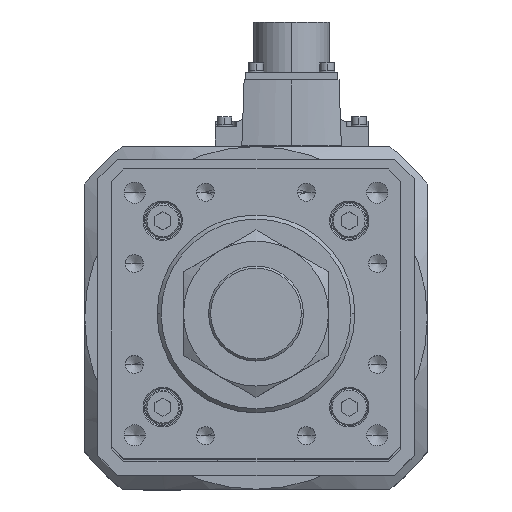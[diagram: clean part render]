
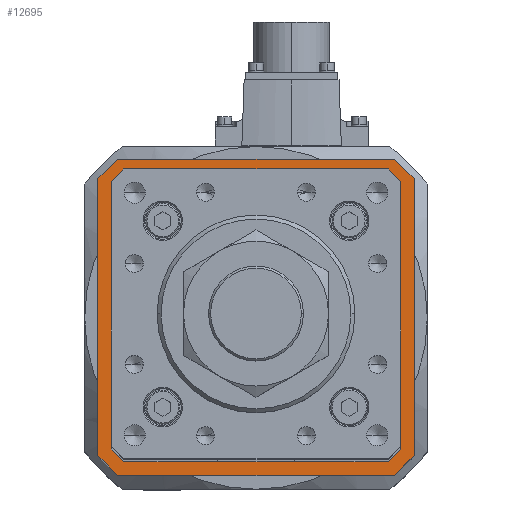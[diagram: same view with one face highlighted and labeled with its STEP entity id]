
A CAD part, top view. The second image highlights one B-rep face of the part: STEP entity #12695.
In plain terms, the highlighted planar face has unit normal (0, 0, 1).
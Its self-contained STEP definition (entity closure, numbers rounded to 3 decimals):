
#95 = CARTESIAN_POINT ( 'NONE',  ( -49.593, -53.5, -119. ) ) ;
#99 = VERTEX_POINT ( 'NONE', #22244 ) ;
#144 = CARTESIAN_POINT ( 'NONE',  ( 53.646, 49.446, -119. ) ) ;
#305 = VECTOR ( 'NONE', #11824, 1000. ) ;
#431 = VERTEX_POINT ( 'NONE', #31860 ) ;
#668 = ORIENTED_EDGE ( 'NONE', *, *, #36686, .T. ) ;
#748 = CARTESIAN_POINT ( 'NONE',  ( -60., -52.5, -119. ) ) ;
#1088 = EDGE_CURVE ( 'NONE', #9482, #1307, #27171, .T. ) ;
#1255 = LINE ( 'NONE', #25652, #15807 ) ;
#1307 = VERTEX_POINT ( 'NONE', #95 ) ;
#1320 = DIRECTION ( 'NONE',  ( 0., 1., 0. ) ) ;
#1944 = EDGE_CURVE ( 'NONE', #12021, #2591, #1255, .T. ) ;
#2183 = CARTESIAN_POINT ( 'NONE',  ( 49.593, 53.5, -119. ) ) ;
#2281 = ORIENTED_EDGE ( 'NONE', *, *, #34970, .F. ) ;
#2591 = VERTEX_POINT ( 'NONE', #9090 ) ;
#3013 = LINE ( 'NONE', #10335, #25193 ) ;
#3414 = CARTESIAN_POINT ( 'NONE',  ( 0., 0., -119. ) ) ;
#3561 = CARTESIAN_POINT ( 'NONE',  ( 53.5, -49.8, -119. ) ) ;
#3909 = CARTESIAN_POINT ( 'NONE',  ( -49.8, -53.5, -119. ) ) ;
#4072 = DIRECTION ( 'NONE',  ( 0., 1., 0. ) ) ;
#4471 = VECTOR ( 'NONE', #22693, 1000. ) ;
#5193 = EDGE_CURVE ( 'NONE', #1307, #10642, #27370, .T. ) ;
#6234 = EDGE_CURVE ( 'NONE', #431, #19478, #21884, .T. ) ;
#6612 = LINE ( 'NONE', #36043, #33432 ) ;
#7060 = ORIENTED_EDGE ( 'NONE', *, *, #36964, .T. ) ;
#8082 = LINE ( 'NONE', #28334, #22557 ) ;
#8440 = FACE_OUTER_BOUND ( 'NONE', #21092, .T. ) ;
#8579 = DIRECTION ( 'NONE',  ( 1., 0., 0. ) ) ;
#8928 = ORIENTED_EDGE ( 'NONE', *, *, #1088, .T. ) ;
#9090 = CARTESIAN_POINT ( 'NONE',  ( -49.593, 53.5, -119. ) ) ;
#9356 = ORIENTED_EDGE ( 'NONE', *, *, #11106, .F. ) ;
#9482 = VERTEX_POINT ( 'NONE', #14128 ) ;
#9708 = DIRECTION ( 'NONE',  ( -0.707, -0.707, 0. ) ) ;
#10124 = CARTESIAN_POINT ( 'NONE',  ( 53.5, 49.593, -119. ) ) ;
#10335 = CARTESIAN_POINT ( 'NONE',  ( 49.446, -53.646, -119. ) ) ;
#10465 = CARTESIAN_POINT ( 'NONE',  ( -60., 52.5, -119. ) ) ;
#10642 = VERTEX_POINT ( 'NONE', #36210 ) ;
#10655 = LINE ( 'NONE', #33070, #32436 ) ;
#10708 = AXIS2_PLACEMENT_3D ( 'NONE', #3414, #17770, #17398 ) ;
#10752 = DIRECTION ( 'NONE',  ( 0.707, -0.707, 0. ) ) ;
#11106 = EDGE_CURVE ( 'NONE', #30418, #14557, #6612, .T. ) ;
#11151 = CARTESIAN_POINT ( 'NONE',  ( 49.8, 53.5, -119. ) ) ;
#11385 = CARTESIAN_POINT ( 'NONE',  ( 52.5, -60., -119. ) ) ;
#11406 = DIRECTION ( 'NONE',  ( 1., 0., 0. ) ) ;
#11824 = DIRECTION ( 'NONE',  ( 0., -1., 0. ) ) ;
#12021 = VERTEX_POINT ( 'NONE', #24099 ) ;
#12249 = CARTESIAN_POINT ( 'NONE',  ( 60., -52.5, -119. ) ) ;
#12256 = EDGE_CURVE ( 'NONE', #37343, #29572, #17924, .T. ) ;
#12695 = ADVANCED_FACE ( 'NONE', ( #16131, #8440 ), #35162, .T. ) ;
#12951 = LINE ( 'NONE', #11385, #15197 ) ;
#13240 = DIRECTION ( 'NONE',  ( -0.707, -0.707, 0. ) ) ;
#14128 = CARTESIAN_POINT ( 'NONE',  ( 49.593, -53.5, -119. ) ) ;
#14142 = LINE ( 'NONE', #10465, #22720 ) ;
#14287 = ORIENTED_EDGE ( 'NONE', *, *, #35700, .F. ) ;
#14557 = VERTEX_POINT ( 'NONE', #748 ) ;
#14612 = VERTEX_POINT ( 'NONE', #32608 ) ;
#15197 = VECTOR ( 'NONE', #31698, 1000. ) ;
#15583 = ORIENTED_EDGE ( 'NONE', *, *, #29707, .T. ) ;
#15689 = DIRECTION ( 'NONE',  ( 0.707, 0.707, 0. ) ) ;
#15783 = VERTEX_POINT ( 'NONE', #25537 ) ;
#15807 = VECTOR ( 'NONE', #22878, 1000. ) ;
#16131 = FACE_BOUND ( 'NONE', #22710, .T. ) ;
#16234 = VECTOR ( 'NONE', #10752, 1000. ) ;
#16568 = VECTOR ( 'NONE', #11406, 1000. ) ;
#16910 = CARTESIAN_POINT ( 'NONE',  ( 53.5, -49.593, -119. ) ) ;
#17272 = ORIENTED_EDGE ( 'NONE', *, *, #20436, .F. ) ;
#17294 = CARTESIAN_POINT ( 'NONE',  ( -52.5, -60., -119. ) ) ;
#17398 = DIRECTION ( 'NONE',  ( 1., 0., 0. ) ) ;
#17770 = DIRECTION ( 'NONE',  ( 0., 0., 1. ) ) ;
#17924 = LINE ( 'NONE', #3561, #20659 ) ;
#18616 = VECTOR ( 'NONE', #35759, 1000. ) ;
#19297 = VECTOR ( 'NONE', #34873, 1000. ) ;
#19478 = VERTEX_POINT ( 'NONE', #22008 ) ;
#20436 = EDGE_CURVE ( 'NONE', #15783, #431, #20753, .T. ) ;
#20659 = VECTOR ( 'NONE', #23935, 1000. ) ;
#20753 = LINE ( 'NONE', #23454, #305 ) ;
#20760 = EDGE_CURVE ( 'NONE', #14612, #27278, #8082, .T. ) ;
#21092 = EDGE_LOOP ( 'NONE', ( #32056, #37172, #2281, #9356, #36181, #22595, #17272, #14287 ) ) ;
#21231 = LINE ( 'NONE', #33980, #16234 ) ;
#21557 = DIRECTION ( 'NONE',  ( -0.707, 0.707, 0. ) ) ;
#21696 = CARTESIAN_POINT ( 'NONE',  ( -53.5, 49.8, -119. ) ) ;
#21884 = LINE ( 'NONE', #12249, #23678 ) ;
#22008 = CARTESIAN_POINT ( 'NONE',  ( 52.5, -60., -119. ) ) ;
#22244 = CARTESIAN_POINT ( 'NONE',  ( -60., 52.5, -119. ) ) ;
#22557 = VECTOR ( 'NONE', #8579, 1000. ) ;
#22595 = ORIENTED_EDGE ( 'NONE', *, *, #6234, .F. ) ;
#22693 = DIRECTION ( 'NONE',  ( 0.707, -0.707, 0. ) ) ;
#22710 = EDGE_LOOP ( 'NONE', ( #7060, #15583, #25254, #32116, #8928, #36512, #668, #32346 ) ) ;
#22720 = VECTOR ( 'NONE', #1320, 1000. ) ;
#22878 = DIRECTION ( 'NONE',  ( 0.707, 0.707, 0. ) ) ;
#23385 = CARTESIAN_POINT ( 'NONE',  ( -53.646, -49.446, -119. ) ) ;
#23454 = CARTESIAN_POINT ( 'NONE',  ( 60., 52.5, -119. ) ) ;
#23678 = VECTOR ( 'NONE', #9708, 1000. ) ;
#23935 = DIRECTION ( 'NONE',  ( 0., -1., 0. ) ) ;
#24099 = CARTESIAN_POINT ( 'NONE',  ( -53.5, 49.593, -119. ) ) ;
#25145 = VERTEX_POINT ( 'NONE', #2183 ) ;
#25193 = VECTOR ( 'NONE', #13240, 1000. ) ;
#25254 = ORIENTED_EDGE ( 'NONE', *, *, #12256, .T. ) ;
#25537 = CARTESIAN_POINT ( 'NONE',  ( 60., 52.5, -119. ) ) ;
#25652 = CARTESIAN_POINT ( 'NONE',  ( -49.446, 53.646, -119. ) ) ;
#27171 = LINE ( 'NONE', #3909, #18616 ) ;
#27278 = VERTEX_POINT ( 'NONE', #36874 ) ;
#27370 = LINE ( 'NONE', #23385, #19297 ) ;
#28334 = CARTESIAN_POINT ( 'NONE',  ( 52.5, 60., -119. ) ) ;
#29572 = VERTEX_POINT ( 'NONE', #16910 ) ;
#29707 = EDGE_CURVE ( 'NONE', #25145, #37343, #34946, .T. ) ;
#30418 = VERTEX_POINT ( 'NONE', #17294 ) ;
#30619 = LINE ( 'NONE', #11151, #16568 ) ;
#31698 = DIRECTION ( 'NONE',  ( -1., 0., 0. ) ) ;
#31860 = CARTESIAN_POINT ( 'NONE',  ( 60., -52.5, -119. ) ) ;
#32056 = ORIENTED_EDGE ( 'NONE', *, *, #20760, .F. ) ;
#32116 = ORIENTED_EDGE ( 'NONE', *, *, #36242, .T. ) ;
#32346 = ORIENTED_EDGE ( 'NONE', *, *, #1944, .T. ) ;
#32436 = VECTOR ( 'NONE', #15689, 1000. ) ;
#32608 = CARTESIAN_POINT ( 'NONE',  ( -52.5, 60., -119. ) ) ;
#32839 = EDGE_CURVE ( 'NONE', #19478, #30418, #12951, .T. ) ;
#33070 = CARTESIAN_POINT ( 'NONE',  ( -52.5, 60., -119. ) ) ;
#33147 = EDGE_CURVE ( 'NONE', #99, #14612, #10655, .T. ) ;
#33432 = VECTOR ( 'NONE', #21557, 1000. ) ;
#33980 = CARTESIAN_POINT ( 'NONE',  ( 60., 52.5, -119. ) ) ;
#34303 = VECTOR ( 'NONE', #4072, 1000. ) ;
#34873 = DIRECTION ( 'NONE',  ( -0.707, 0.707, 0. ) ) ;
#34946 = LINE ( 'NONE', #144, #4471 ) ;
#34970 = EDGE_CURVE ( 'NONE', #14557, #99, #14142, .T. ) ;
#35162 = PLANE ( 'NONE',  #10708 ) ;
#35686 = LINE ( 'NONE', #21696, #34303 ) ;
#35700 = EDGE_CURVE ( 'NONE', #27278, #15783, #21231, .T. ) ;
#35759 = DIRECTION ( 'NONE',  ( -1., 0., 0. ) ) ;
#36043 = CARTESIAN_POINT ( 'NONE',  ( -52.5, -60., -119. ) ) ;
#36181 = ORIENTED_EDGE ( 'NONE', *, *, #32839, .F. ) ;
#36210 = CARTESIAN_POINT ( 'NONE',  ( -53.5, -49.593, -119. ) ) ;
#36242 = EDGE_CURVE ( 'NONE', #29572, #9482, #3013, .T. ) ;
#36512 = ORIENTED_EDGE ( 'NONE', *, *, #5193, .T. ) ;
#36686 = EDGE_CURVE ( 'NONE', #10642, #12021, #35686, .T. ) ;
#36874 = CARTESIAN_POINT ( 'NONE',  ( 52.5, 60., -119. ) ) ;
#36964 = EDGE_CURVE ( 'NONE', #2591, #25145, #30619, .T. ) ;
#37172 = ORIENTED_EDGE ( 'NONE', *, *, #33147, .F. ) ;
#37343 = VERTEX_POINT ( 'NONE', #10124 ) ;
